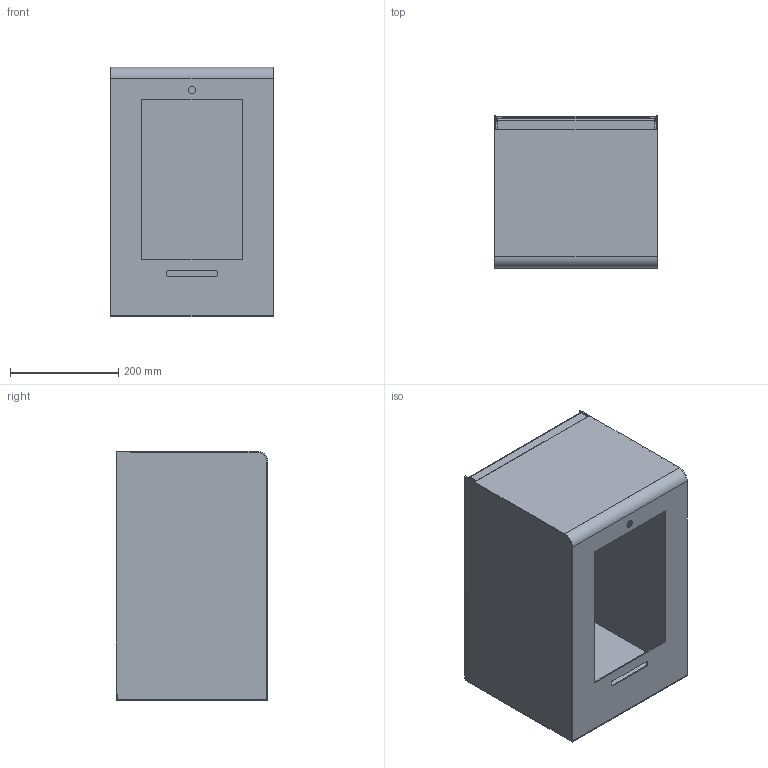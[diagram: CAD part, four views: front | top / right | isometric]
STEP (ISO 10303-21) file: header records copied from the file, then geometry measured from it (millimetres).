
FILE_DESCRIPTION(('Open CASCADE Model'),'2;1');
FILE_NAME('Open CASCADE Shape Model','2026-09-23T02:05:59',('Author'),( 'Open CASCADE'),'Open CASCADE STEP processor 7.7','Open CASCADE 7.7' ,'Unknown');
FILE_SCHEMA(('AUTOMOTIVE_DESIGN { 1 0 10303 214 1 1 1 1 }'));
Length unit declared in the file: millimetre
Products named in the file (16): SODA_ALUMINUM_PROTOTYPE_REV_B; 01_front_top_R20; 01_front_top_R20_part; 02_left_side; 02_left_side_part; 03_right_side; 03_right_side_part; 04_bottom_integrated_return; 04_bottom_integrated_return_part; 05_slide_lid; 05_slide_lid_part; 06_left_U_guide; 06_left_U_guide_part; 07_right_U_guide; 07_right_U_guide_part
Assembly tree (15 placements, depth 4):
  SODA_ALUMINUM_PROTOTYPE_REV_B
    SODA_ALUMINUM_PROTOTYPE_REV_B
      01_front_top_R20
        01_front_top_R20_part
      02_left_side
        02_left_side_part
      03_right_side
        03_right_side_part
      04_bottom_integrated_return
        04_bottom_integrated_return_part
      05_slide_lid
        05_slide_lid_part
      06_left_U_guide
        06_left_U_guide_part
      07_right_U_guide
        07_right_U_guide_part
Bounding box: 300 x 280 x 460 mm (x, y, z)
Volume: 1311059.6 mm3; surface area: 1333504.9 mm2
Topology: 7 solids, 7 shells, 109 faces, 285 edges, 190 vertices
Faces by surface type: plane 76, cylinder 33
Full cylindrical faces by diameter (mm): 14 x1
Entity records: 7387 total; most frequent: CARTESIAN_POINT 1453, DIRECTION 1043, LINE 626, VECTOR 626, ORIENTED_EDGE 570, PCURVE 570, DEFINITIONAL_REPRESENTATION 570, EDGE_CURVE 285
